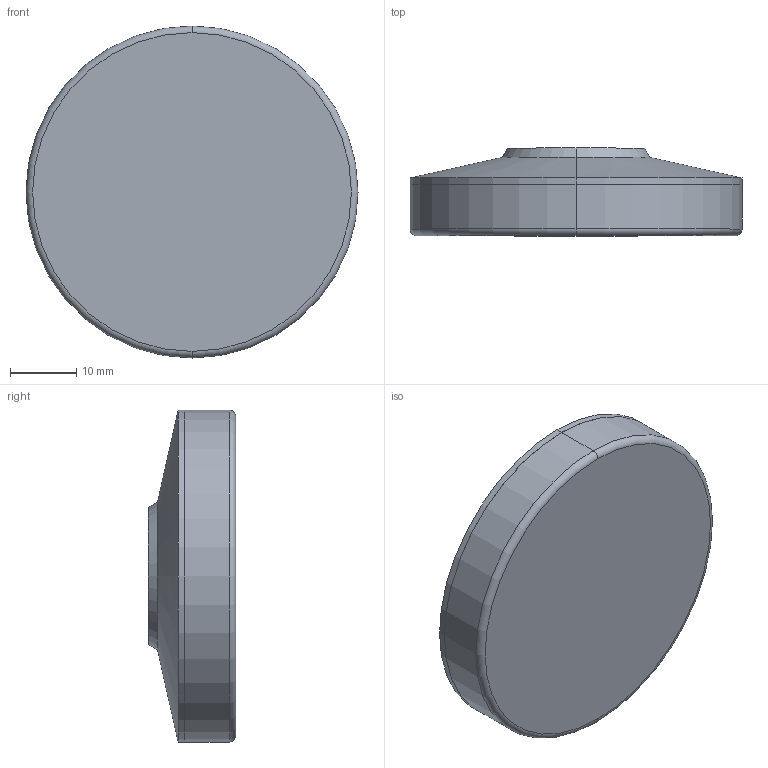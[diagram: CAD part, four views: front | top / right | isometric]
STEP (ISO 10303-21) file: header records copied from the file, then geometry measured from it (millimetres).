
FILE_DESCRIPTION (( 'STEP AP214' ), '1' );
FILE_NAME ('6311.3-50-11,5-R.step', '2023-04-17T05:34:25', ( '' ), ( '' ), 'SwSTEP 2.0', 'SolidWorks 2022', '' );
FILE_SCHEMA (( 'AUTOMOTIVE_DESIGN' ));
Length unit declared in the file: millimetre
Products named in the file (1): 6311.3-50-11,5-R
Bounding box: 50 x 13.2 x 50 mm (x, y, z)
Volume: 20323.1 mm3; surface area: 6189.8 mm2
Topology: 1 solids, 1 shells, 36 faces, 79 edges, 50 vertices
Faces by surface type: cylinder 16, plane 8, torus 6, cone 4, sphere 2
Entity records: 1134 total; most frequent: DIRECTION 201, CARTESIAN_POINT 186, ORIENTED_EDGE 158, AXIS2_PLACEMENT_3D 89, EDGE_CURVE 79, CIRCLE 52, VERTEX_POINT 50, EDGE_LOOP 41
